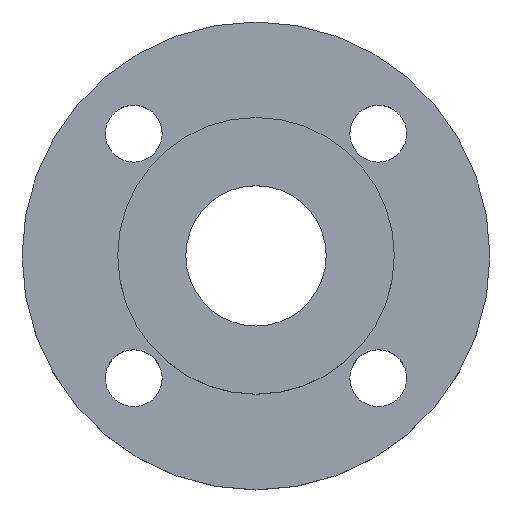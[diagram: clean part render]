
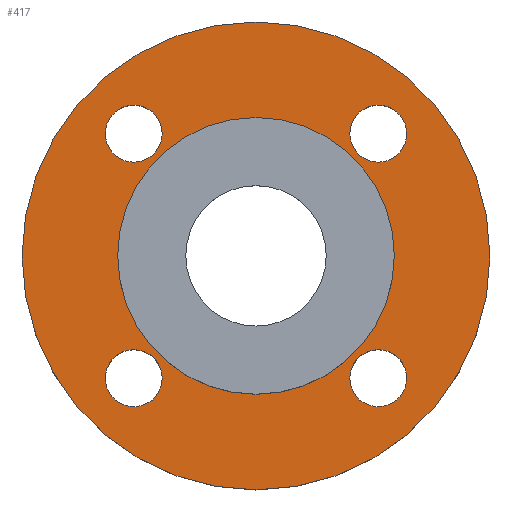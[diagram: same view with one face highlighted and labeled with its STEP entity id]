
A CAD part, top view. The second image highlights one B-rep face of the part: STEP entity #417.
In plain terms, the highlighted planar face has unit normal (0, 0, 1).
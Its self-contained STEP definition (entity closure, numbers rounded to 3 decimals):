
#4 = EDGE_CURVE ( 'NONE', #566, #356, #428, .T. ) ;
#13 = AXIS2_PLACEMENT_3D ( 'NONE', #262, #263, #264 ) ;
#21 = AXIS2_PLACEMENT_3D ( 'NONE', #284, #283, #281 ) ;
#35 = AXIS2_PLACEMENT_3D ( 'NONE', #209, #251, #235 ) ;
#37 = CIRCLE ( 'NONE', #35, 7. ) ;
#48 = AXIS2_PLACEMENT_3D ( 'NONE', #269, #266, #242 ) ;
#65 = AXIS2_PLACEMENT_3D ( 'NONE', #459, #464, #466 ) ;
#67 = CIRCLE ( 'NONE', #280, 7. ) ;
#76 = EDGE_CURVE ( 'NONE', #385, #584, #67, .T. ) ;
#77 = CARTESIAN_POINT ( 'NONE',  ( -30.052, 30.052, 0. ) ) ;
#78 = EDGE_CURVE ( 'NONE', #483, #582, #128, .T. ) ;
#79 = DIRECTION ( 'NONE',  ( 0., 0., -1. ) ) ;
#80 = DIRECTION ( 'NONE',  ( -1., 0., 0. ) ) ;
#90 = VERTEX_POINT ( 'NONE', #661 ) ;
#93 = CIRCLE ( 'NONE', #21, 57.5 ) ;
#126 = AXIS2_PLACEMENT_3D ( 'NONE', #77, #79, #80 ) ;
#127 = CARTESIAN_POINT ( 'NONE',  ( 30.052, -30.052, 0. ) ) ;
#128 = CIRCLE ( 'NONE', #510, 7. ) ;
#130 = DIRECTION ( 'NONE',  ( 0., 0., -1. ) ) ;
#132 = DIRECTION ( 'NONE',  ( -1., 0., 0. ) ) ;
#148 = DIRECTION ( 'NONE',  ( -1., 0., 0. ) ) ;
#149 = DIRECTION ( 'NONE',  ( 0., 0., -1. ) ) ;
#150 = CARTESIAN_POINT ( 'NONE',  ( -30.052, 30.052, 0. ) ) ;
#180 = CIRCLE ( 'NONE', #311, 7. ) ;
#202 = CARTESIAN_POINT ( 'NONE',  ( -23.052, 30.052, 0. ) ) ;
#209 = CARTESIAN_POINT ( 'NONE',  ( -30.052, -30.052, 0. ) ) ;
#221 = CARTESIAN_POINT ( 'NONE',  ( 37.052, 30.052, 0. ) ) ;
#228 = CARTESIAN_POINT ( 'NONE',  ( 23.052, -30.052, 0. ) ) ;
#235 = DIRECTION ( 'NONE',  ( -1., 0., 0. ) ) ;
#239 = CARTESIAN_POINT ( 'NONE',  ( 23., 0., 0. ) ) ;
#242 = DIRECTION ( 'NONE',  ( -1., 0., 0. ) ) ;
#243 = DIRECTION ( 'NONE',  ( 1., 0., 0. ) ) ;
#245 = CARTESIAN_POINT ( 'NONE',  ( 0., 0., 0. ) ) ;
#250 = DIRECTION ( 'NONE',  ( 0., 0., 1. ) ) ;
#251 = DIRECTION ( 'NONE',  ( 0., 0., -1. ) ) ;
#262 = CARTESIAN_POINT ( 'NONE',  ( 0., 0., 0. ) ) ;
#263 = DIRECTION ( 'NONE',  ( 0., 0., 1. ) ) ;
#264 = DIRECTION ( 'NONE',  ( 1., 0., 0. ) ) ;
#266 = DIRECTION ( 'NONE',  ( 0., 0., -1. ) ) ;
#269 = CARTESIAN_POINT ( 'NONE',  ( 30.052, 30.052, 0. ) ) ;
#280 = AXIS2_PLACEMENT_3D ( 'NONE', #655, #656, #657 ) ;
#281 = DIRECTION ( 'NONE',  ( 1., 0., 0. ) ) ;
#283 = DIRECTION ( 'NONE',  ( 0., 0., 1. ) ) ;
#284 = CARTESIAN_POINT ( 'NONE',  ( 0., 0., 0. ) ) ;
#292 = CARTESIAN_POINT ( 'NONE',  ( -23.052, -30.052, 0. ) ) ;
#295 = EDGE_CURVE ( 'NONE', #380, #601, #680, .T. ) ;
#302 = CARTESIAN_POINT ( 'NONE',  ( 37.052, -30.052, 0. ) ) ;
#305 = EDGE_CURVE ( 'NONE', #582, #483, #180, .T. ) ;
#307 = CIRCLE ( 'NONE', #13, 57.5 ) ;
#311 = AXIS2_PLACEMENT_3D ( 'NONE', #127, #130, #132 ) ;
#314 = CIRCLE ( 'NONE', #48, 7. ) ;
#321 = CARTESIAN_POINT ( 'NONE',  ( -23., 0., 0. ) ) ;
#322 = AXIS2_PLACEMENT_3D ( 'NONE', #150, #149, #148 ) ;
#324 = AXIS2_PLACEMENT_3D ( 'NONE', #245, #250, #243 ) ;
#331 = AXIS2_PLACEMENT_3D ( 'NONE', #479, #498, #502 ) ;
#333 = CARTESIAN_POINT ( 'NONE',  ( -37.052, -30.052, 0. ) ) ;
#340 = EDGE_CURVE ( 'NONE', #373, #90, #307, .T. ) ;
#347 = CARTESIAN_POINT ( 'NONE',  ( -57.5, 0., 0. ) ) ;
#351 = CARTESIAN_POINT ( 'NONE',  ( -37.052, 30.052, 0. ) ) ;
#356 = VERTEX_POINT ( 'NONE', #321 ) ;
#357 = VERTEX_POINT ( 'NONE', #333 ) ;
#363 = CARTESIAN_POINT ( 'NONE',  ( 23.052, 30.052, 0. ) ) ;
#364 = EDGE_LOOP ( 'NONE', ( #470, #471 ) ) ;
#373 = VERTEX_POINT ( 'NONE', #347 ) ;
#380 = VERTEX_POINT ( 'NONE', #351 ) ;
#385 = VERTEX_POINT ( 'NONE', #363 ) ;
#392 = FACE_BOUND ( 'NONE', #570, .T. ) ;
#393 = EDGE_LOOP ( 'NONE', ( #460, #462 ) ) ;
#396 = FACE_BOUND ( 'NONE', #616, .T. ) ;
#417 = ADVANCED_FACE ( 'NONE', ( #392, #396, #431, #450, #451, #452 ), #457, .T. ) ;
#424 = EDGE_CURVE ( 'NONE', #357, #589, #525, .T. ) ;
#428 = CIRCLE ( 'NONE', #681, 23. ) ;
#431 = FACE_BOUND ( 'NONE', #393, .T. ) ;
#448 = ORIENTED_EDGE ( 'NONE', *, *, #305, .T. ) ;
#450 = FACE_BOUND ( 'NONE', #600, .T. ) ;
#451 = FACE_BOUND ( 'NONE', #364, .T. ) ;
#452 = FACE_OUTER_BOUND ( 'NONE', #513, .T. ) ;
#453 = ORIENTED_EDGE ( 'NONE', *, *, #78, .T. ) ;
#455 = ORIENTED_EDGE ( 'NONE', *, *, #524, .T. ) ;
#456 = ORIENTED_EDGE ( 'NONE', *, *, #424, .T. ) ;
#457 = PLANE ( 'NONE',  #65 ) ;
#459 = CARTESIAN_POINT ( 'NONE',  ( 0., 0., 0. ) ) ;
#460 = ORIENTED_EDGE ( 'NONE', *, *, #730, .T. ) ;
#462 = ORIENTED_EDGE ( 'NONE', *, *, #295, .T. ) ;
#464 = DIRECTION ( 'NONE',  ( 0., 0., 1. ) ) ;
#466 = DIRECTION ( 'NONE',  ( 1., 0., 0. ) ) ;
#467 = ORIENTED_EDGE ( 'NONE', *, *, #520, .T. ) ;
#469 = ORIENTED_EDGE ( 'NONE', *, *, #76, .T. ) ;
#470 = ORIENTED_EDGE ( 'NONE', *, *, #4, .F. ) ;
#471 = ORIENTED_EDGE ( 'NONE', *, *, #540, .F. ) ;
#472 = ORIENTED_EDGE ( 'NONE', *, *, #497, .T. ) ;
#474 = ORIENTED_EDGE ( 'NONE', *, *, #340, .T. ) ;
#479 = CARTESIAN_POINT ( 'NONE',  ( -30.052, -30.052, 0. ) ) ;
#483 = VERTEX_POINT ( 'NONE', #228 ) ;
#497 = EDGE_CURVE ( 'NONE', #90, #373, #93, .T. ) ;
#498 = DIRECTION ( 'NONE',  ( 0., 0., -1. ) ) ;
#502 = DIRECTION ( 'NONE',  ( -1., 0., 0. ) ) ;
#510 = AXIS2_PLACEMENT_3D ( 'NONE', #658, #659, #660 ) ;
#513 = EDGE_LOOP ( 'NONE', ( #472, #474 ) ) ;
#520 = EDGE_CURVE ( 'NONE', #584, #385, #314, .T. ) ;
#524 = EDGE_CURVE ( 'NONE', #589, #357, #37, .T. ) ;
#525 = CIRCLE ( 'NONE', #331, 7. ) ;
#540 = EDGE_CURVE ( 'NONE', #356, #566, #579, .T. ) ;
#566 = VERTEX_POINT ( 'NONE', #239 ) ;
#570 = EDGE_LOOP ( 'NONE', ( #448, #453 ) ) ;
#579 = CIRCLE ( 'NONE', #324, 23. ) ;
#582 = VERTEX_POINT ( 'NONE', #302 ) ;
#584 = VERTEX_POINT ( 'NONE', #221 ) ;
#589 = VERTEX_POINT ( 'NONE', #292 ) ;
#600 = EDGE_LOOP ( 'NONE', ( #467, #469 ) ) ;
#601 = VERTEX_POINT ( 'NONE', #202 ) ;
#616 = EDGE_LOOP ( 'NONE', ( #455, #456 ) ) ;
#617 = CARTESIAN_POINT ( 'NONE',  ( 0., 0., 0. ) ) ;
#618 = DIRECTION ( 'NONE',  ( 0., 0., 1. ) ) ;
#619 = DIRECTION ( 'NONE',  ( 1., 0., 0. ) ) ;
#655 = CARTESIAN_POINT ( 'NONE',  ( 30.052, 30.052, 0. ) ) ;
#656 = DIRECTION ( 'NONE',  ( 0., 0., -1. ) ) ;
#657 = DIRECTION ( 'NONE',  ( -1., 0., 0. ) ) ;
#658 = CARTESIAN_POINT ( 'NONE',  ( 30.052, -30.052, 0. ) ) ;
#659 = DIRECTION ( 'NONE',  ( 0., 0., -1. ) ) ;
#660 = DIRECTION ( 'NONE',  ( -1., 0., 0. ) ) ;
#661 = CARTESIAN_POINT ( 'NONE',  ( 57.5, 0., 0. ) ) ;
#680 = CIRCLE ( 'NONE', #126, 7. ) ;
#681 = AXIS2_PLACEMENT_3D ( 'NONE', #617, #618, #619 ) ;
#723 = CIRCLE ( 'NONE', #322, 7. ) ;
#730 = EDGE_CURVE ( 'NONE', #601, #380, #723, .T. ) ;
